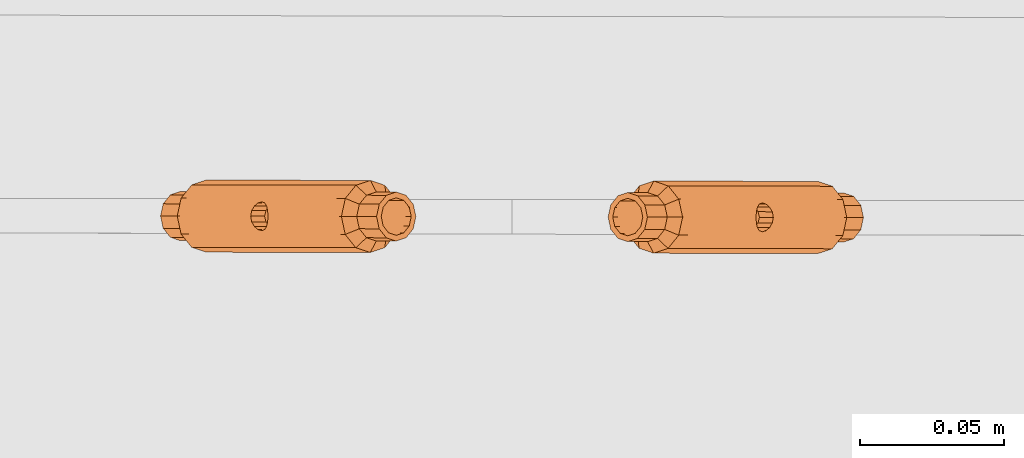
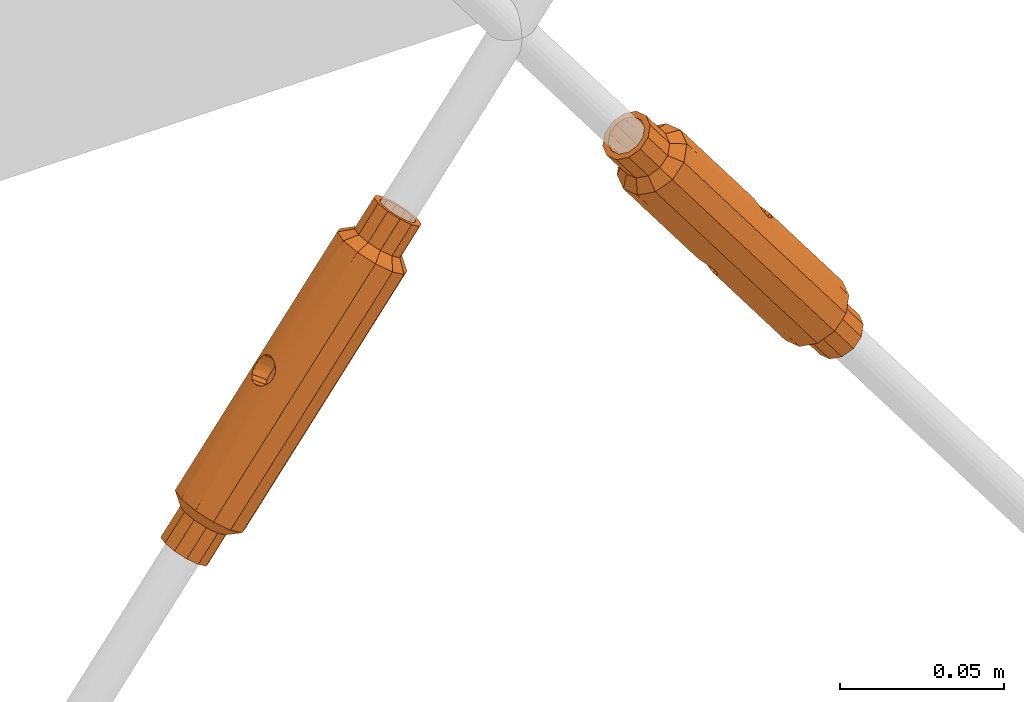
# One storey, part 275 of 288: 2 proxies.
"""IFC2X3 building model written with IfcOpenShell, lengths in millimetres."""

from ifc_helpers import new_model, entity, si_unit, converted_unit, origin_with_axes, place, context, project, spatial, faceted_brep, material, element, save


model = new_model("IFC2X3")

# Units and contexts
model_context = context("Model", 3, precision=1e-09, world=origin_with_axes())
ifc_project = project(units=[si_unit("LENGTHUNIT", "METRE", prefix="MILLI"), si_unit("AREAUNIT", "SQUARE_METRE"), si_unit("VOLUMEUNIT", "CUBIC_METRE"), converted_unit("PLANEANGLEUNIT", "DEGREE", entity("IfcPlaneAngleMeasure", 0.01745329), si_unit("PLANEANGLEUNIT", "RADIAN"), dimensions=[0, 0, 0, 0, 0, 0, 0])], contexts=[model_context])

# Site, building, storey
site_placement = place(None, origin_with_axes())
site = spatial("IfcSite", under=ifc_project, at=site_placement, Name="Remont ?wietlik?w nad MC w NCPP w Opolu", CompositionType="ELEMENT")
building_placement = place(site_placement, origin_with_axes())
building = spatial("IfcBuilding", under=site, at=building_placement, Name="Konstrukcja 1", CompositionType="ELEMENT")
storey_placement = place(building_placement, origin_with_axes())
storey = spatial("IfcBuildingStorey", under=building, at=storey_placement, Name="Default Storey", CompositionType="ELEMENT", Elevation=0.0)

# Proxies
ifc_material = material(Name="Brak")
proxy_1_placement = place(None, origin_with_axes())
element("IfcBuildingElementProxy", 1, at=proxy_1_placement, inside=storey, material=ifc_material, ObjectType="Turnbuckle", context=model_context, shape_type="Brep", body=[
    faceted_brep([(2366.785509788, -134.710525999, 549.216877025), (2368.412434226, -133.669775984, 549.965245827), (2362.782092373, -133.652659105, 554.184946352), (2406.142473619, -135.120527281, 602.202385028), (2371.021161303, -136.308774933, 556.154733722), (2370.98040644, -134.720410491, 554.829469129), (2370.41187315, -133.385687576, 552.121023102), (2370.725158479, -133.675225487, 553.059571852), (2365.083780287, -133.658082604, 557.264506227), (2369.224331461, -133.382889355, 550.53214317), (2364.062128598, -133.271367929, 555.628843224), (2405.437283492, -138.368874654, 602.723729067), (2365.523356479, -136.29582038, 548.798906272), (2361.516138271, -134.72850313, 553.116909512), (2365.027067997, -138.27365551, 548.656591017), (2360.57550614, -136.339011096, 552.467861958), (2331.308741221, -134.944195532, 502.078055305), (2339.318561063, -130.874928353, 510.455989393), (2339.809354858, -127.388887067, 514.464651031), (2344.819503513, -125.726005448, 510.722954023), (2342.714777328, -129.747715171, 507.919615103), (2336.133779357, -131.955556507, 517.203763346), (2360.221113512, -138.262331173, 552.248620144), (2371.013766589, -138.28776205, 556.666537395), (2393.007415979, -132.089568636, 593.298253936), (2365.747773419, -134.73847419, 558.77865615), (2366.101154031, -136.352031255, 559.860942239), (2396.682991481, -127.522899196, 590.55914162), (2369.91187817, -133.285151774, 551.25666889), (2408.05377288, -132.745859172, 600.778046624), (2333.220040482, -132.569527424, 500.6537169), (2335.830030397, -129.704834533, 498.708034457), (2332.423129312, -130.835594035, 501.252388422), (2346.105643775, -130.890920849, 505.383240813), (2339.231564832, -130.851636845, 496.163680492), (2403.835298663, -138.365099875, 603.92107211), (2404.737441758, -142.617237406, 603.23931452), (2407.222171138, -145.734316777, 601.376718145), (2410.623705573, -146.881119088, 598.83236418), (2414.030606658, -145.750359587, 596.288010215), (2416.529997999, -142.645024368, 594.42541384), (2417.452169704, -138.397185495, 593.74365625), (2416.55002661, -134.145047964, 594.42541384), (2414.065297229, -131.027968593, 596.288010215), (2410.663762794, -129.881166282, 598.83236418), (2407.256861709, -131.011925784, 601.376718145), (2404.757470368, -134.117261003, 603.23931452), (2408.027244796, -144.004158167, 600.778046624), (2406.127157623, -141.620509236, 602.202385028), (2410.65905018, -131.88116073, 598.83236418), (2413.260223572, -132.758127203, 596.886681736), (2415.160310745, -135.141776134, 595.462343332), (2415.850184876, -138.393410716, 594.940999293), (2415.144994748, -141.641758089, 595.462343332), (2413.233695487, -144.016426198, 596.886681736), (2410.628418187, -144.881124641, 598.83236418), (2330.603551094, -138.192542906, 502.599399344), (2329.923737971, -133.940929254, 503.114984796), (2336.827008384, -133.970524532, 512.312744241), (2334.777644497, -138.202378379, 518.206348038), (2365.51403022, -140.253807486, 548.798906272), (2360.566438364, -140.187300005, 552.467861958), (2371.011835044, -140.266762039, 556.154733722), (2366.207812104, -138.276437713, 560.258566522), (2397.872766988, -134.101038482, 594.027876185), (2396.950595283, -138.348877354, 594.709633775), (2370.963595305, -141.854916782, 554.829469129), (2341.716294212, -133.968716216, 494.301084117), (2342.618437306, -138.220853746, 493.619326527), (2341.696265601, -142.468692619, 494.301084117), (2339.19687426, -145.574027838, 496.163680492), (2335.789973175, -146.70478734, 498.708034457), (2332.38843874, -145.557985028, 501.252388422), (2329.90370936, -142.440905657, 503.114984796), (2329.001566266, -138.188768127, 503.796742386), (2340.31126235, -141.465426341, 495.338013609), (2341.016452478, -138.217078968, 494.816669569), (2340.326578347, -134.965444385, 495.338013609), (2338.426491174, -132.581795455, 496.762352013), (2335.825317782, -131.704828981, 498.708034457), (2331.293425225, -141.444177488, 502.078055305), (2333.193512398, -143.827826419, 500.6537169), (2335.794685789, -144.704792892, 498.708034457), (2338.39996309, -143.84009445, 496.762352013), (2375.490140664, -134.73103684, 542.710929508), (2375.750311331, -133.687066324, 544.480826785), (2375.441900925, -136.319191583, 541.385664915), (2349.821760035, -127.412479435, 506.981257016), (2401.693140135, -125.860017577, 586.817444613), (2400.372158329, -130.995703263, 592.16527981), (2348.582580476, -133.998224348, 503.526485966), (2361.499470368, -141.802222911, 553.116909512), (2366.768698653, -141.84503229, 549.216877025), (2366.092086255, -140.200320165, 559.860942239), (2391.651281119, -138.336390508, 594.300838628), (2365.731105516, -141.812193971, 558.77865615), (2370.703424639, -142.898887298, 553.059571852), (2365.062028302, -142.889444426, 557.264506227), (2370.388778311, -143.186945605, 552.121023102), (2368.390700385, -142.893437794, 549.965245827), (2362.760340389, -142.884020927, 554.184946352), (2381.391707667, -133.696509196, 540.275892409), (2380.722630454, -134.773759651, 538.761742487), (2375.439969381, -138.298191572, 540.873861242), (2380.361649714, -136.385633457, 537.679456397), (2376.064957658, -133.399008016, 545.419375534), (2335.90772882, -138.205041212, 512.992363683), (2369.888315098, -143.285124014, 551.25666889), (2364.038565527, -143.271340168, 555.628843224), (2369.201236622, -143.184147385, 550.53214317), (2397.852738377, -142.601014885, 594.027876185), (2349.481894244, -138.237026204, 502.846866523), (2375.432574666, -140.277178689, 541.385664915), (2380.245923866, -138.309515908, 537.281832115), (2382.415170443, -133.314613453, 541.911555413), (2353.47577383, -131.996419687, 504.2421447), (2406.695396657, -127.546491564, 583.075747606), (2403.779059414, -129.864943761, 589.620925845), (2376.565420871, -133.300829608, 546.283729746), (2336.104325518, -144.455521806, 517.203763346), (2392.97796214, -144.589533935, 593.298253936), (2354.802454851, -138.249563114, 503.239560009), (2380.352581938, -140.233922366, 537.679456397), (2377.252499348, -133.401806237, 547.008255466), (2336.807042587, -142.443843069, 512.312744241), (2400.337467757, -145.718094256, 592.16527981), (2375.72857749, -142.910728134, 544.480826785), (2375.47332953, -141.865543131, 542.710929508), (2348.56261468, -142.471542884, 503.526485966), (2380.705962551, -141.847479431, 538.761742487), (2383.693395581, -133.701932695, 543.355452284), (2410.349410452, -132.130431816, 580.33663529), (2407.180593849, -131.011746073, 587.076571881), (2378.063035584, -133.692515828, 547.57515281), (2379.685037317, -134.740921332, 548.323521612), (2384.954265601, -134.783730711, 544.423489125), (2380.93970575, -136.332146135, 548.741492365), (2385.887297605, -136.398653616, 545.072536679), (2381.426667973, -138.312298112, 548.88380762), (2376.04186282, -143.200266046, 545.419375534), (2376.5418578, -143.300801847, 546.283729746), (2381.369955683, -142.927871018, 540.275892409), (2377.229404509, -143.203064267, 547.008255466), (2386.232622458, -138.323622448, 545.291778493), (2339.283979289, -145.551146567, 510.455989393), (2339.758339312, -149.039462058, 514.464651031), (2396.631975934, -149.173474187, 590.55914162), (2380.93037949, -140.290133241, 548.741492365), (2379.668226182, -141.875427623, 548.323521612), (2403.739002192, -146.864896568, 589.620925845), (2378.041301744, -142.916177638, 547.57515281), (2382.391607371, -143.314585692, 541.911555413), (2383.671643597, -142.933294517, 543.355452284), (2342.674845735, -146.694352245, 507.919615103), (2346.071062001, -145.567139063, 505.383240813), (2353.44631999, -144.496384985, 504.2421447), (2384.937597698, -141.857450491, 544.423489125), (2385.878229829, -140.246942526, 545.072536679), (2411.676091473, -138.383575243, 579.334050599), (2409.665323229, -134.128825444, 585.213975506), (2344.760595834, -150.725936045, 510.722954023), (2401.634232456, -150.859948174, 586.817444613), (2407.145903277, -145.734137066, 587.076571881), (2410.319956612, -144.630397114, 580.33663529), (2349.770744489, -149.063054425, 506.981257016), (2410.567466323, -138.380962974, 584.532217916), (2406.644381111, -149.197066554, 583.075747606), (2409.645294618, -142.628801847, 585.213975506)], [[[0, 1, 2]], [[3, 4, 5]], [[6, 7, 8]], [[9, 10, 2]], [[1, 9, 2]], [[3, 5, 7]], [[3, 11, 4]], [[12, 0, 13]], [[14, 12, 15]], [[16, 1, 0]], [[17, 18, 19, 20]], [[12, 13, 15]], [[0, 2, 13]], [[21, 2, 10]], [[14, 15, 22]], [[11, 23, 4]], [[7, 5, 8]], [[6, 8, 10]], [[24, 21, 10]], [[5, 4, 25]], [[4, 23, 26]], [[21, 24, 27, 18]], [[28, 6, 10]], [[29, 7, 6]], [[9, 28, 10]], [[30, 9, 1]], [[20, 31, 32, 17]], [[33, 34, 31, 20]], [[29, 3, 7]], [[35, 36, 37, 38, 39, 40, 41, 42, 43, 44, 45, 46], [47, 48, 11, 3, 29, 49, 50, 51, 52, 53, 54, 55]], [[16, 0, 12]], [[56, 12, 14]], [[16, 30, 1]], [[17, 32, 57, 58]], [[18, 17, 58, 21]], [[59, 15, 13]], [[21, 13, 2]], [[60, 14, 61]], [[14, 22, 61]], [[59, 22, 15]], [[11, 62, 23]], [[23, 63, 26]], [[5, 25, 8]], [[24, 10, 8]], [[4, 26, 25]], [[46, 64, 65, 35]], [[48, 66, 62]], [[11, 48, 62]], [[67, 68, 69, 70, 71, 72, 73, 74, 57, 32, 31, 34], [75, 76, 77, 78, 79, 30, 16, 56, 80, 81, 82, 83]], [[77, 84, 85]], [[77, 86, 84]], [[77, 76, 86]], [[20, 19, 87, 33]], [[18, 27, 88, 19]], [[64, 46, 45, 89]], [[78, 77, 85]], [[29, 6, 28]], [[30, 28, 9]], [[34, 33, 90, 67]], [[56, 16, 12]], [[56, 14, 60]], [[21, 59, 13]], [[60, 61, 91]], [[59, 61, 22]], [[92, 60, 91]], [[23, 62, 93]], [[23, 93, 63]], [[94, 26, 63]], [[62, 66, 95]], [[66, 96, 97]], [[24, 8, 25]], [[94, 25, 26]], [[24, 64, 89, 27]], [[47, 98, 96]], [[48, 96, 66]], [[99, 92, 100]], [[80, 60, 92]], [[101, 85, 84]], [[102, 84, 86]], [[76, 103, 86]], [[104, 86, 103]], [[101, 105, 85]], [[78, 85, 105]], [[30, 29, 28]], [[80, 56, 60]], [[58, 57, 74, 106]], [[21, 58, 106, 59]], [[59, 91, 61]], [[96, 98, 97]], [[107, 108, 98]], [[107, 109, 108]], [[109, 99, 100]], [[92, 91, 100]], [[62, 95, 93]], [[94, 63, 93]], [[66, 97, 95]], [[94, 24, 25]], [[64, 24, 94, 65]], [[35, 65, 110, 36]], [[81, 109, 107]], [[47, 107, 98]], [[48, 47, 96]], [[80, 92, 99]], [[81, 99, 109]], [[67, 90, 111, 68]], [[102, 101, 84]], [[104, 102, 86]], [[76, 112, 103]], [[113, 104, 103]], [[101, 114, 105]], [[33, 87, 115, 90]], [[19, 88, 116, 87]], [[27, 89, 117, 88]], [[89, 45, 44, 117]], [[114, 118, 105]], [[78, 105, 118]], [[29, 30, 79, 49]], [[59, 119, 91]], [[98, 108, 97]], [[109, 100, 108]], [[119, 100, 91]], [[94, 93, 95]], [[120, 95, 97]], [[47, 81, 107]], [[81, 80, 99]], [[76, 75, 112]], [[115, 101, 102]], [[121, 102, 104]], [[122, 103, 112]], [[122, 113, 103]], [[121, 104, 113]], [[115, 114, 101]], [[114, 123, 118]], [[50, 78, 118]], [[78, 50, 49, 79]], [[106, 74, 73, 124]], [[59, 106, 124, 119]], [[120, 97, 108]], [[119, 108, 100]], [[120, 94, 95]], [[65, 94, 120, 110]], [[36, 110, 125, 37]], [[81, 47, 55, 82]], [[75, 83, 126]], [[75, 127, 112]], [[75, 126, 127]], [[68, 111, 128, 69]], [[90, 115, 121, 111]], [[121, 115, 102]], [[129, 122, 112]], [[121, 113, 122]], [[114, 130, 123]], [[115, 131, 114]], [[87, 116, 131, 115]], [[88, 117, 132, 116]], [[117, 44, 43, 132]], [[130, 133, 123]], [[50, 118, 123]], [[130, 134, 133]], [[135, 136, 134]], [[137, 138, 136]], [[119, 120, 108]], [[83, 139, 126]], [[83, 140, 139]], [[129, 112, 127]], [[127, 126, 141]], [[54, 142, 140]], [[121, 122, 129]], [[137, 143, 138]], [[135, 137, 136]], [[130, 135, 134]], [[131, 130, 114]], [[50, 123, 133]], [[51, 133, 134]], [[51, 134, 136]], [[52, 136, 138]], [[124, 73, 72, 144]], [[119, 124, 144, 145]], [[120, 119, 145, 146]], [[110, 120, 146, 125]], [[52, 138, 147]], [[53, 147, 148]], [[37, 125, 149, 38]], [[53, 148, 150]], [[54, 150, 142]], [[83, 54, 140]], [[82, 55, 54, 83]], [[126, 139, 141]], [[139, 140, 151]], [[127, 141, 129]], [[140, 142, 151]], [[152, 142, 150]], [[71, 153, 144, 72]], [[70, 154, 153, 71]], [[69, 128, 154, 70]], [[111, 121, 155, 128]], [[155, 121, 129]], [[152, 150, 148]], [[156, 148, 147]], [[157, 147, 138]], [[143, 157, 138]], [[158, 143, 137]], [[158, 137, 135]], [[131, 135, 130]], [[116, 132, 159, 131]], [[132, 43, 42, 159]], [[51, 50, 133]], [[52, 51, 136]], [[53, 52, 147]], [[54, 53, 150]], [[139, 151, 141]], [[155, 129, 141]], [[152, 151, 142]], [[156, 152, 148]], [[157, 156, 147]], [[158, 157, 143]], [[131, 158, 135]], [[145, 144, 153, 160]], [[146, 145, 160, 161]], [[125, 146, 161, 149]], [[38, 149, 162, 39]], [[155, 141, 151]], [[163, 151, 152]], [[154, 164, 160, 153]], [[128, 155, 164, 154]], [[163, 152, 156]], [[158, 156, 157]], [[131, 159, 165, 158]], [[159, 42, 41, 165]], [[163, 155, 151]], [[158, 163, 156]], [[161, 160, 164, 166]], [[149, 161, 166, 162]], [[40, 167, 165, 41]], [[39, 162, 167, 40]], [[155, 163, 166, 164]], [[158, 165, 167, 163]], [[162, 166, 163, 167]]]),
])
proxy_2_placement = place(None, origin_with_axes())
element("IfcBuildingElementProxy", 2, at=proxy_2_placement, inside=storey, material=ifc_material, ObjectType="Turnbuckle", context=model_context, shape_type="Brep", body=[
    faceted_brep([(2534.725916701, -142.224937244, 549.216877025), (2533.099188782, -143.265994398, 549.965245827), (2538.729533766, -143.282048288, 554.184946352), (2495.368876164, -141.82236642, 602.202385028), (2530.489963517, -140.627488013, 556.154733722), (2530.531018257, -142.215844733, 554.829469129), (2531.099803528, -143.550460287, 552.121023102), (2530.78646354, -143.260981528, 553.059571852), (2536.427844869, -143.27705934, 557.264506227), (2532.287345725, -143.553034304, 550.53214317), (2537.44956955, -143.663581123, 555.628843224), (2496.073453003, -138.573885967, 602.723729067), (2535.987770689, -140.6394046, 548.798906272), (2539.99528473, -142.205965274, 553.116909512), (2536.483685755, -138.661475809, 548.656591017), (2540.935612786, -140.59527975, 552.467861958), (2570.202640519, -141.98456983, 502.078055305), (2562.193589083, -146.055349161, 510.455989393), (2561.703453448, -149.541483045, 514.464651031), (2556.693618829, -151.205310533, 510.722954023), (2558.797585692, -147.183203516, 507.919615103), (2565.378166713, -144.974119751, 517.203763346), (2541.289642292, -138.671892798, 552.248620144), (2530.496984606, -138.648499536, 556.666537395), (2508.504505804, -144.850845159, 593.298253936), (2535.763647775, -142.196793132, 558.77865615), (2535.409962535, -140.583302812, 559.860942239), (2504.829792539, -149.418208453, 590.55914162), (2531.59981748, -143.650901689, 551.25666889), (2493.458025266, -144.197395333, 600.778046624), (2568.291789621, -144.359598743, 500.6537169), (2565.682340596, -147.224784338, 498.708034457), (2569.089028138, -146.093381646, 501.252388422), (2555.406503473, -146.040638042, 505.383240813), (2562.28058971, -146.078624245, 496.163680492), (2497.675438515, -138.577358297, 603.92107211), (2496.772492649, -134.325391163, 603.23931452), (2494.28717482, -131.208780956, 601.376718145), (2490.885423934, -130.062620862, 598.83236418), (2487.478736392, -131.194023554, 596.288010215), (2484.979931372, -134.299830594, 594.42541384), (2484.05856166, -138.547843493, 593.74365625), (2484.961507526, -142.799810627, 594.42541384), (2487.446825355, -145.916420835, 596.288010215), (2490.848576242, -147.062580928, 598.83236418), (2494.255263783, -145.931178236, 601.376718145), (2496.754068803, -142.825371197, 603.23931452), (2493.482427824, -132.93909153, 600.778046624), (2495.382964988, -135.322381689, 602.202385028), (2490.852911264, -145.062585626, 598.83236418), (2488.251572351, -144.186110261, 596.886681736), (2486.351035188, -141.802820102, 595.462343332), (2485.660547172, -138.551315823, 594.940999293), (2486.365124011, -135.302835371, 595.462343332), (2488.275974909, -132.927806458, 596.886681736), (2490.881088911, -132.062616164, 598.83236418), (2570.907217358, -138.736089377, 502.599399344), (2571.587833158, -142.987574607, 503.114984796), (2564.684557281, -142.959282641, 512.312744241), (2566.733122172, -138.727041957, 518.206348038), (2535.996349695, -136.681415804, 548.798906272), (2540.943954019, -136.746989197, 552.467861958), (2530.498542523, -136.669499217, 556.154733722), (2535.302941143, -138.658916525, 560.258566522), (2503.638775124, -142.84029391, 594.027876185), (2504.560144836, -138.592281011, 594.709633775), (2530.546482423, -135.081335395, 554.829469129), (2559.795271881, -142.962014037, 494.301084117), (2558.892326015, -138.710046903, 493.619326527), (2559.813695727, -134.462034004, 494.301084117), (2562.312500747, -131.356226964, 496.163680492), (2565.719188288, -130.224824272, 498.708034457), (2569.120939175, -131.370984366, 501.252388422), (2571.606257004, -134.487594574, 503.114984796), (2572.50920287, -138.739561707, 503.796742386), (2561.198888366, -135.465038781, 495.338013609), (2560.494311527, -138.713519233, 494.816669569), (2561.184799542, -141.965023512, 495.338013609), (2563.085336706, -144.348313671, 496.762352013), (2565.686675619, -145.224789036, 498.708034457), (2570.216729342, -135.484585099, 502.078055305), (2568.316192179, -133.10129494, 500.6537169), (2565.714853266, -132.224819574, 498.708034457), (2563.109739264, -133.090009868, 496.762352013), (2526.021282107, -142.206069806, 542.710929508), (2525.761308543, -143.250089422, 544.480826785), (2526.069222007, -140.617905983, 541.385664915), (2551.691043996, -149.519780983, 506.981257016), (2499.819957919, -151.082035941, 586.817444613), (2501.139970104, -145.94610095, 592.16527981), (2552.928980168, -142.933802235, 503.526485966), (2540.01061714, -135.132242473, 553.116909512), (2534.741380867, -135.090427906, 549.216877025), (2535.418303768, -136.735012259, 559.860942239), (2509.859461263, -138.603767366, 594.300838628), (2535.778980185, -135.12307033, 558.77865615), (2530.806455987, -134.037315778, 553.059571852), (2536.447854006, -134.045693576, 557.264506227), (2531.121047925, -133.749198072, 552.121023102), (2533.119181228, -134.042328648, 549.965245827), (2538.749542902, -134.050682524, 554.184946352), (2520.119910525, -143.241711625, 540.275892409), (2520.788784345, -142.16433487, 538.761742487), (2526.070779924, -138.638905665, 540.873861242), (2521.149460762, -140.552392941, 537.679456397), (2525.446716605, -143.538207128, 545.419375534), (2565.603037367, -138.72459248, 512.992363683), (2531.621492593, -133.65092518, 551.25666889), (2537.471244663, -133.663604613, 555.628843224), (2532.308590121, -133.751772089, 550.53214317), (2503.65719897, -134.340313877, 594.027876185), (2552.028866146, -138.695170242, 502.846866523), (2526.077801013, -136.659917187, 541.385664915), (2521.264823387, -138.628488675, 537.281832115), (2519.096519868, -143.623800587, 541.911555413), (2548.036164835, -144.936530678, 504.2421447), (2494.817383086, -149.396506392, 583.075747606), (2497.733282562, -147.077503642, 589.620925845), (2524.946271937, -143.63648002, 546.283729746), (2565.405260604, -132.474149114, 517.203763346), (2508.531599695, -132.350874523, 593.298253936), (2546.708303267, -138.683637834, 503.239560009), (2521.157801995, -136.704102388, 537.679456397), (2524.259174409, -143.535633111, 547.008255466), (2564.702923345, -134.485960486, 512.312744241), (2501.171881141, -131.22370367, 592.16527981), (2525.78130099, -134.026423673, 544.480826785), (2526.036746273, -135.071560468, 542.710929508), (2552.947346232, -134.46048008, 503.526485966), (2520.804116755, -135.090612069, 538.761742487), (2517.818221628, -143.236722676, 543.355452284), (2491.162503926, -144.813256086, 580.33663529), (2494.331531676, -145.931343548, 587.076571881), (2523.448583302, -143.245076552, 547.57515281), (2521.826383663, -142.196977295, 548.323521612), (2516.55714739, -142.155162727, 544.423489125), (2520.571414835, -140.605989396, 548.741492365), (2515.623810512, -140.540416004, 545.072536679), (2520.084078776, -138.625929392, 548.88380762), (2525.467961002, -133.736944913, 545.419375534), (2524.96794705, -133.636503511, 546.283729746), (2520.139919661, -134.010345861, 540.275892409), (2524.280418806, -133.734370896, 547.008255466), (2515.278122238, -138.615512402, 545.291778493), (2562.22540004, -131.37912468, 510.455989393), (2561.750381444, -127.890898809, 514.464651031), (2504.876720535, -127.767624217, 590.55914162), (2520.579993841, -136.6480006, 548.741492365), (2521.841847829, -135.062467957, 548.323521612), (2497.770130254, -130.077543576, 589.620925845), (2523.468575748, -134.021410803, 547.57515281), (2519.11819498, -133.623824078, 541.911555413), (2517.838230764, -134.005356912, 543.355452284), (2558.834317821, -130.236559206, 507.919615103), (2555.43831443, -131.36441356, 505.383240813), (2548.063258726, -132.436560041, 504.2421447), (2516.5724798, -135.081439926, 544.423489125), (2515.632151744, -136.692125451, 545.072536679), (2489.834642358, -138.560363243, 579.334050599), (2491.846213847, -142.814733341, 585.213975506), (2556.747806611, -126.205369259, 510.722954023), (2499.874145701, -126.082094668, 586.817444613), (2494.363442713, -131.208946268, 587.076571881), (2491.189597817, -132.313285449, 580.33663529), (2551.737971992, -127.869196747, 506.981257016), (2490.943267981, -138.562766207, 584.532217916), (2494.864311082, -127.745922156, 583.075747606), (2491.864637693, -134.314753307, 585.213975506)], [[[0, 1, 2]], [[3, 4, 5]], [[6, 7, 8]], [[9, 10, 2]], [[1, 9, 2]], [[3, 5, 7]], [[3, 11, 4]], [[12, 0, 13]], [[14, 12, 15]], [[16, 1, 0]], [[17, 18, 19, 20]], [[12, 13, 15]], [[0, 2, 13]], [[21, 2, 10]], [[14, 15, 22]], [[11, 23, 4]], [[7, 5, 8]], [[6, 8, 10]], [[24, 21, 10]], [[5, 4, 25]], [[4, 23, 26]], [[21, 24, 27, 18]], [[28, 6, 10]], [[29, 7, 6]], [[9, 28, 10]], [[30, 9, 1]], [[20, 31, 32, 17]], [[33, 34, 31, 20]], [[29, 3, 7]], [[35, 36, 37, 38, 39, 40, 41, 42, 43, 44, 45, 46], [47, 48, 11, 3, 29, 49, 50, 51, 52, 53, 54, 55]], [[16, 0, 12]], [[56, 12, 14]], [[16, 30, 1]], [[17, 32, 57, 58]], [[18, 17, 58, 21]], [[59, 15, 13]], [[21, 13, 2]], [[60, 14, 61]], [[14, 22, 61]], [[59, 22, 15]], [[11, 62, 23]], [[23, 63, 26]], [[5, 25, 8]], [[24, 10, 8]], [[4, 26, 25]], [[46, 64, 65, 35]], [[48, 66, 62]], [[11, 48, 62]], [[67, 68, 69, 70, 71, 72, 73, 74, 57, 32, 31, 34], [75, 76, 77, 78, 79, 30, 16, 56, 80, 81, 82, 83]], [[77, 84, 85]], [[77, 86, 84]], [[77, 76, 86]], [[20, 19, 87, 33]], [[18, 27, 88, 19]], [[64, 46, 45, 89]], [[78, 77, 85]], [[29, 6, 28]], [[30, 28, 9]], [[34, 33, 90, 67]], [[56, 16, 12]], [[56, 14, 60]], [[21, 59, 13]], [[60, 61, 91]], [[59, 61, 22]], [[92, 60, 91]], [[23, 62, 93]], [[23, 93, 63]], [[94, 26, 63]], [[62, 66, 95]], [[66, 96, 97]], [[24, 8, 25]], [[94, 25, 26]], [[24, 64, 89, 27]], [[47, 98, 96]], [[48, 96, 66]], [[99, 92, 100]], [[80, 60, 92]], [[101, 85, 84]], [[102, 84, 86]], [[76, 103, 86]], [[104, 86, 103]], [[101, 105, 85]], [[78, 85, 105]], [[30, 29, 28]], [[80, 56, 60]], [[58, 57, 74, 106]], [[21, 58, 106, 59]], [[59, 91, 61]], [[96, 98, 97]], [[107, 108, 98]], [[107, 109, 108]], [[109, 99, 100]], [[92, 91, 100]], [[62, 95, 93]], [[94, 63, 93]], [[66, 97, 95]], [[94, 24, 25]], [[64, 24, 94, 65]], [[35, 65, 110, 36]], [[81, 109, 107]], [[47, 107, 98]], [[48, 47, 96]], [[80, 92, 99]], [[81, 99, 109]], [[67, 90, 111, 68]], [[102, 101, 84]], [[104, 102, 86]], [[76, 112, 103]], [[113, 104, 103]], [[101, 114, 105]], [[33, 87, 115, 90]], [[19, 88, 116, 87]], [[27, 89, 117, 88]], [[89, 45, 44, 117]], [[114, 118, 105]], [[78, 105, 118]], [[29, 30, 79, 49]], [[59, 119, 91]], [[98, 108, 97]], [[109, 100, 108]], [[119, 100, 91]], [[94, 93, 95]], [[120, 95, 97]], [[47, 81, 107]], [[81, 80, 99]], [[76, 75, 112]], [[115, 101, 102]], [[121, 102, 104]], [[122, 103, 112]], [[122, 113, 103]], [[121, 104, 113]], [[115, 114, 101]], [[114, 123, 118]], [[50, 78, 118]], [[78, 50, 49, 79]], [[106, 74, 73, 124]], [[59, 106, 124, 119]], [[120, 97, 108]], [[119, 108, 100]], [[120, 94, 95]], [[65, 94, 120, 110]], [[36, 110, 125, 37]], [[81, 47, 55, 82]], [[75, 83, 126]], [[75, 127, 112]], [[75, 126, 127]], [[68, 111, 128, 69]], [[90, 115, 121, 111]], [[121, 115, 102]], [[129, 122, 112]], [[121, 113, 122]], [[114, 130, 123]], [[115, 131, 114]], [[87, 116, 131, 115]], [[88, 117, 132, 116]], [[117, 44, 43, 132]], [[130, 133, 123]], [[50, 118, 123]], [[130, 134, 133]], [[135, 136, 134]], [[137, 138, 136]], [[119, 120, 108]], [[83, 139, 126]], [[83, 140, 139]], [[129, 112, 127]], [[127, 126, 141]], [[54, 142, 140]], [[121, 122, 129]], [[137, 143, 138]], [[135, 137, 136]], [[130, 135, 134]], [[131, 130, 114]], [[50, 123, 133]], [[51, 133, 134]], [[51, 134, 136]], [[52, 136, 138]], [[124, 73, 72, 144]], [[119, 124, 144, 145]], [[120, 119, 145, 146]], [[110, 120, 146, 125]], [[52, 138, 147]], [[53, 147, 148]], [[37, 125, 149, 38]], [[53, 148, 150]], [[54, 150, 142]], [[83, 54, 140]], [[82, 55, 54, 83]], [[126, 139, 141]], [[139, 140, 151]], [[127, 141, 129]], [[140, 142, 151]], [[152, 142, 150]], [[71, 153, 144, 72]], [[70, 154, 153, 71]], [[69, 128, 154, 70]], [[111, 121, 155, 128]], [[155, 121, 129]], [[152, 150, 148]], [[156, 148, 147]], [[157, 147, 138]], [[143, 157, 138]], [[158, 143, 137]], [[158, 137, 135]], [[131, 135, 130]], [[116, 132, 159, 131]], [[132, 43, 42, 159]], [[51, 50, 133]], [[52, 51, 136]], [[53, 52, 147]], [[54, 53, 150]], [[139, 151, 141]], [[155, 129, 141]], [[152, 151, 142]], [[156, 152, 148]], [[157, 156, 147]], [[158, 157, 143]], [[131, 158, 135]], [[145, 144, 153, 160]], [[146, 145, 160, 161]], [[125, 146, 161, 149]], [[38, 149, 162, 39]], [[155, 141, 151]], [[163, 151, 152]], [[154, 164, 160, 153]], [[128, 155, 164, 154]], [[163, 152, 156]], [[158, 156, 157]], [[131, 159, 165, 158]], [[159, 42, 41, 165]], [[163, 155, 151]], [[158, 163, 156]], [[161, 160, 164, 166]], [[149, 161, 166, 162]], [[40, 167, 165, 41]], [[39, 162, 167, 40]], [[155, 163, 166, 164]], [[158, 165, 167, 163]], [[162, 166, 163, 167]]]),
])

save(model, "model.ifc")
